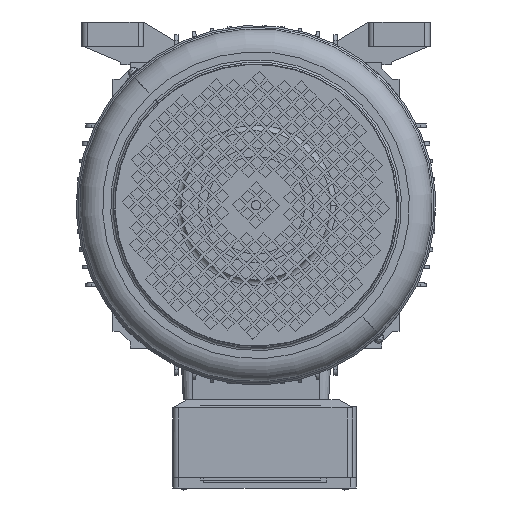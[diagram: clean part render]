
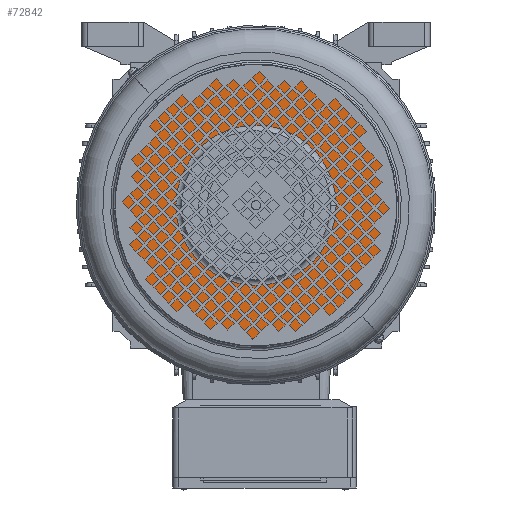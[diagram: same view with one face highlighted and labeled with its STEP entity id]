
A CAD part, front view. The second image highlights one B-rep face of the part: STEP entity #72842.
In plain terms, the highlighted planar face has unit normal (0, -1, 0).
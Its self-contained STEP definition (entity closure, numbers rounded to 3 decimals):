
#389 = ORIENTED_EDGE ( 'NONE', *, *, #22735, .F. ) ;
#1314 = DIRECTION ( 'NONE',  ( 0., 1., 0. ) ) ;
#2581 = CARTESIAN_POINT ( 'NONE',  ( 0., 15.906, 0. ) ) ;
#4069 = EDGE_LOOP ( 'NONE', ( #389, #62158 ) ) ;
#9777 = DIRECTION ( 'NONE',  ( 0., 0., 1. ) ) ;
#11879 = VERTEX_POINT ( 'NONE', #73826 ) ;
#15816 = FACE_BOUND ( 'NONE', #42751, .T. ) ;
#21989 = DIRECTION ( 'NONE',  ( 0., 1., 0. ) ) ;
#22290 = DIRECTION ( 'NONE',  ( 0., 0., 1. ) ) ;
#22313 = DIRECTION ( 'NONE',  ( 0., 1., 0. ) ) ;
#22735 = EDGE_CURVE ( 'NONE', #32125, #40977, #24808, .T. ) ;
#24647 = VERTEX_POINT ( 'NONE', #72295 ) ;
#24808 = CIRCLE ( 'NONE', #73571, 116.844 ) ;
#25743 = ORIENTED_EDGE ( 'NONE', *, *, #54015, .T. ) ;
#31293 = AXIS2_PLACEMENT_3D ( 'NONE', #2581, #21989, #22290 ) ;
#32125 = VERTEX_POINT ( 'NONE', #68307 ) ;
#32342 = AXIS2_PLACEMENT_3D ( 'NONE', #65134, #39829, #86574 ) ;
#39829 = DIRECTION ( 'NONE',  ( 0., -1., 0. ) ) ;
#40977 = VERTEX_POINT ( 'NONE', #80189 ) ;
#42751 = EDGE_LOOP ( 'NONE', ( #25743, #77383 ) ) ;
#43211 = DIRECTION ( 'NONE',  ( 0., 0., 1. ) ) ;
#44571 = CARTESIAN_POINT ( 'NONE',  ( 0., 15.906, 0. ) ) ;
#46709 = FACE_OUTER_BOUND ( 'NONE', #4069, .T. ) ;
#52126 = AXIS2_PLACEMENT_3D ( 'NONE', #83429, #1314, #43211 ) ;
#52289 = CIRCLE ( 'NONE', #52126, 70. ) ;
#53453 = AXIS2_PLACEMENT_3D ( 'NONE', #82709, #22313, #68697 ) ;
#54015 = EDGE_CURVE ( 'NONE', #24647, #11879, #87771, .T. ) ;
#55715 = EDGE_CURVE ( 'NONE', #40977, #32125, #73607, .T. ) ;
#57695 = PLANE ( 'NONE',  #32342 ) ;
#60815 = EDGE_CURVE ( 'NONE', #11879, #24647, #52289, .T. ) ;
#62158 = ORIENTED_EDGE ( 'NONE', *, *, #55715, .F. ) ;
#65134 = CARTESIAN_POINT ( 'NONE',  ( -70., 15.906, 0. ) ) ;
#68307 = CARTESIAN_POINT ( 'NONE',  ( 0., 15.906, 116.844 ) ) ;
#68697 = DIRECTION ( 'NONE',  ( 0., 0., 1. ) ) ;
#72295 = CARTESIAN_POINT ( 'NONE',  ( 0., 15.906, 70. ) ) ;
#72842 = ADVANCED_FACE ( 'NONE', ( #15816, #46709 ), #57695, .T. ) ;
#73571 = AXIS2_PLACEMENT_3D ( 'NONE', #44571, #77358, #9777 ) ;
#73607 = CIRCLE ( 'NONE', #31293, 116.844 ) ;
#73826 = CARTESIAN_POINT ( 'NONE',  ( 0., 15.906, -70. ) ) ;
#77358 = DIRECTION ( 'NONE',  ( 0., 1., 0. ) ) ;
#77383 = ORIENTED_EDGE ( 'NONE', *, *, #60815, .T. ) ;
#80189 = CARTESIAN_POINT ( 'NONE',  ( 0., 15.906, -116.844 ) ) ;
#82709 = CARTESIAN_POINT ( 'NONE',  ( 0., 15.906, 0. ) ) ;
#83429 = CARTESIAN_POINT ( 'NONE',  ( 0., 15.906, 0. ) ) ;
#86574 = DIRECTION ( 'NONE',  ( 0., 0., -1. ) ) ;
#87771 = CIRCLE ( 'NONE', #53453, 70. ) ;
